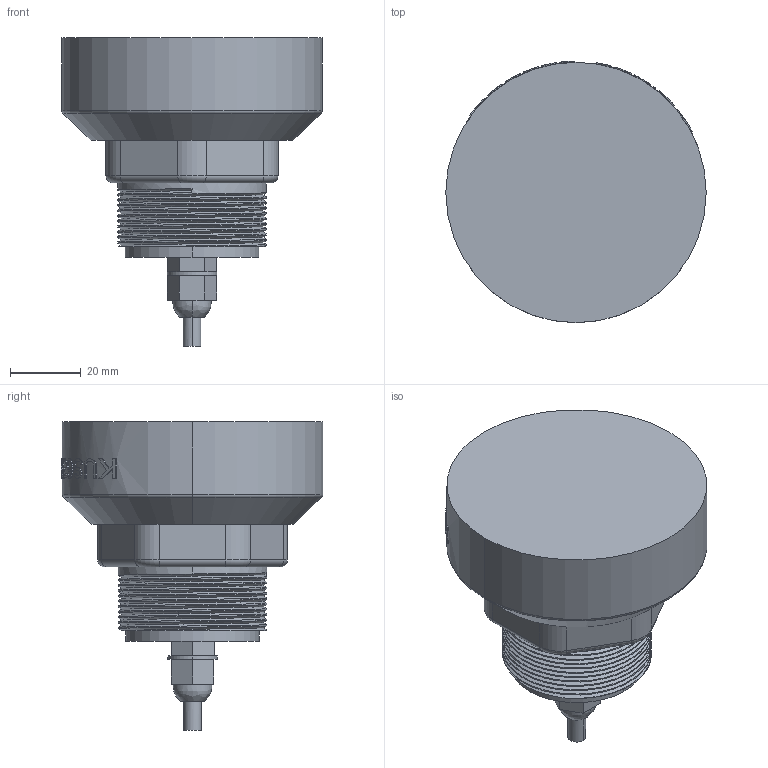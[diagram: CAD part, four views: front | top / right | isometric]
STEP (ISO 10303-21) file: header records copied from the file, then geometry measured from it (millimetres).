
FILE_DESCRIPTION((''),'2;1');
FILE_NAME('KUS63000_ASM','2025-12-24T15:50:02',('28740194'),(''),'CREO PARAMETRIC BY PTC INC, 2024063','CREO PARAMETRIC BY PTC INC, 2024063','');
FILE_SCHEMA(('CONFIG_CONTROL_DESIGN'));
Length unit declared in the file: millimetre
Products named in the file (3): KUS630; 000; KUS63000_ASM
Assembly tree (2 placements, depth 2):
  KUS63000_ASM
    KUS630
    000
Bounding box: 73.5 x 73.82 x 87.11 mm (x, y, z)
Volume: 169850 mm3; surface area: 21217.3 mm2
Topology: 2 solids, 2 shells, 511 faces, 1417 edges, 929 vertices
Faces by surface type: bspline 290, plane 153, cylinder 56, torus 8, cone 4
Entity records: 24829 total; most frequent: CARTESIAN_POINT 13474, ORIENTED_EDGE 2834, DIRECTION 1513, EDGE_CURVE 1417, VERTEX_POINT 929, VECTOR 657, LINE 657, B_SPLINE_CURVE_WITH_KNOTS 558
